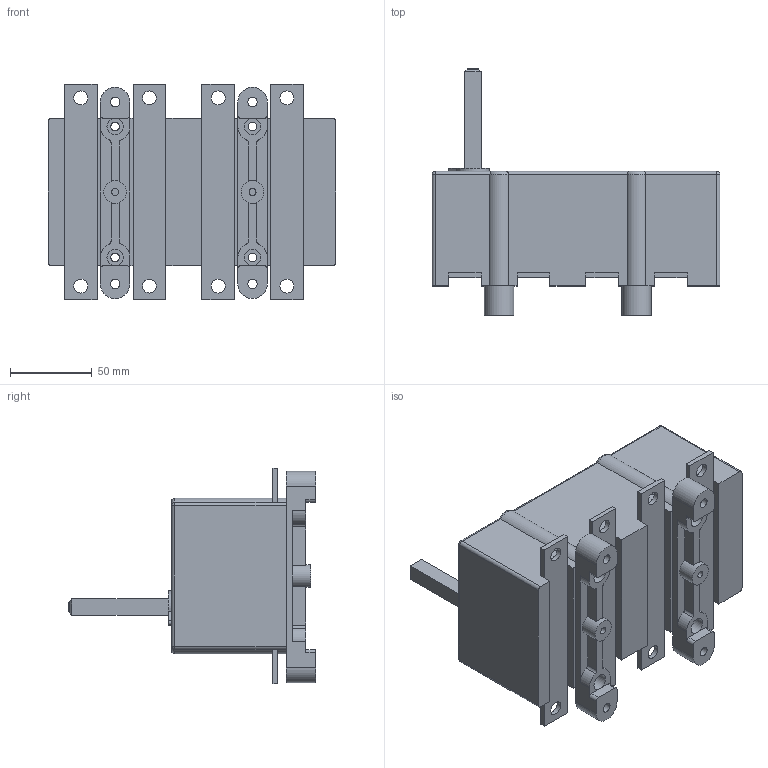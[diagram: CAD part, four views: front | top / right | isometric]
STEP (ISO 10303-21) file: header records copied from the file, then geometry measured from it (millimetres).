
FILE_DESCRIPTION(/* description */ (''),/* implementation_level */ '2;1');
FILE_NAME(/* name */ 'RA160 P3 N.stp',/* time_stamp */ '2021-08-17T13:41:01+02:00',/* author */ (''),/* organization */ (''),/* preprocessor_version */ 'ST-DEVELOPER v18.1',/* originating_system */ 'SIEMENS PLM Software NX 1965',/* authorisation */ '');
FILE_SCHEMA (('AUTOMOTIVE_DESIGN { 1 0 10303 214 3 1 1 1 }'));
Length unit declared in the file: millimetre
Products named in the file (1): RA160 P3 N_stp
Bounding box: 176 x 151 x 132 mm (x, y, z)
Volume: 1128925.6 mm3; surface area: 100725.8 mm2
Topology: 1 solids, 1 shells, 202 faces, 526 edges, 330 vertices
Faces by surface type: plane 116, cylinder 78, torus 4, sphere 4
Full cylindrical faces by diameter (mm): 4.3 x2, 5.3 x4, 5.8 x4, 8.5 x8, 10 x8, 14 x2
Entity records: 6016 total; most frequent: CARTESIAN_POINT 1059, DIRECTION 1038, ORIENTED_EDGE 972, EDGE_CURVE 486, AXIS2_PLACEMENT_3D 357, LINE 324, VECTOR 324, VERTEX_POINT 322
